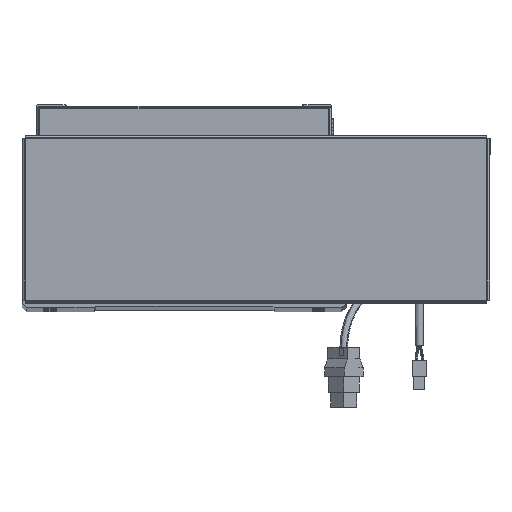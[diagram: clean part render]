
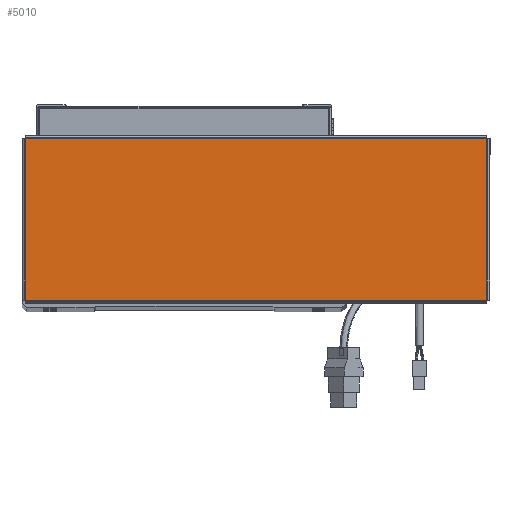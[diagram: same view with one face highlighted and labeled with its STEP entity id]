
A CAD part, top view. The second image highlights one B-rep face of the part: STEP entity #5010.
In plain terms, the highlighted planar face has unit normal (0, 0, 1).
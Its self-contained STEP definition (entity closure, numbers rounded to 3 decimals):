
#4132 = CARTESIAN_POINT ( 'NONE',  ( 156.543, 54.763, 0. ) ) ;
#4220 = DIRECTION ( 'NONE',  ( 0., 1., 0. ) ) ;
#5010 = ADVANCED_FACE ( 'NONE', ( #21405 ), #34474, .T. ) ;
#5211 = ORIENTED_EDGE ( 'NONE', *, *, #44175, .T. ) ;
#10476 = VERTEX_POINT ( 'NONE', #50229 ) ;
#11630 = VERTEX_POINT ( 'NONE', #56285 ) ;
#11869 = EDGE_CURVE ( 'NONE', #17676, #10476, #50174, .T. ) ;
#15012 = DIRECTION ( 'NONE',  ( -1., 0., 0. ) ) ;
#15550 = CARTESIAN_POINT ( 'NONE',  ( 156.513, -54.793, 0. ) ) ;
#17676 = VERTEX_POINT ( 'NONE', #53546 ) ;
#18986 = AXIS2_PLACEMENT_3D ( 'NONE', #29385, #45283, #61022 ) ;
#19657 = CARTESIAN_POINT ( 'NONE',  ( -156.513, 54.793, 0. ) ) ;
#21405 = FACE_OUTER_BOUND ( 'NONE', #45173, .T. ) ;
#23102 = ORIENTED_EDGE ( 'NONE', *, *, #46499, .T. ) ;
#24494 = CARTESIAN_POINT ( 'NONE',  ( 156.513, 54.763, 0. ) ) ;
#29385 = CARTESIAN_POINT ( 'NONE',  ( 0., 0., 0. ) ) ;
#32138 = VERTEX_POINT ( 'NONE', #24494 ) ;
#33183 = VECTOR ( 'NONE', #40866, 1000. ) ;
#34474 = PLANE ( 'NONE',  #18986 ) ;
#35105 = EDGE_CURVE ( 'NONE', #32138, #11630, #48227, .T. ) ;
#40866 = DIRECTION ( 'NONE',  ( 0., -1., 0. ) ) ;
#42108 = ORIENTED_EDGE ( 'NONE', *, *, #11869, .T. ) ;
#43369 = LINE ( 'NONE', #15550, #58304 ) ;
#44175 = EDGE_CURVE ( 'NONE', #10476, #32138, #43369, .T. ) ;
#45173 = EDGE_LOOP ( 'NONE', ( #42108, #5211, #59732, #23102 ) ) ;
#45283 = DIRECTION ( 'NONE',  ( 0., 0., 1. ) ) ;
#46499 = EDGE_CURVE ( 'NONE', #11630, #17676, #67016, .T. ) ;
#48227 = LINE ( 'NONE', #4132, #68040 ) ;
#50174 = LINE ( 'NONE', #68037, #65863 ) ;
#50229 = CARTESIAN_POINT ( 'NONE',  ( 156.513, -54.763, 0. ) ) ;
#51667 = DIRECTION ( 'NONE',  ( 1., 0., 0. ) ) ;
#53546 = CARTESIAN_POINT ( 'NONE',  ( -156.513, -54.763, 0. ) ) ;
#56285 = CARTESIAN_POINT ( 'NONE',  ( -156.513, 54.763, 0. ) ) ;
#58304 = VECTOR ( 'NONE', #4220, 1000. ) ;
#59732 = ORIENTED_EDGE ( 'NONE', *, *, #35105, .T. ) ;
#61022 = DIRECTION ( 'NONE',  ( 1., 0., 0. ) ) ;
#65863 = VECTOR ( 'NONE', #51667, 1000. ) ;
#67016 = LINE ( 'NONE', #19657, #33183 ) ;
#68037 = CARTESIAN_POINT ( 'NONE',  ( -156.543, -54.763, 0. ) ) ;
#68040 = VECTOR ( 'NONE', #15012, 1000. ) ;
